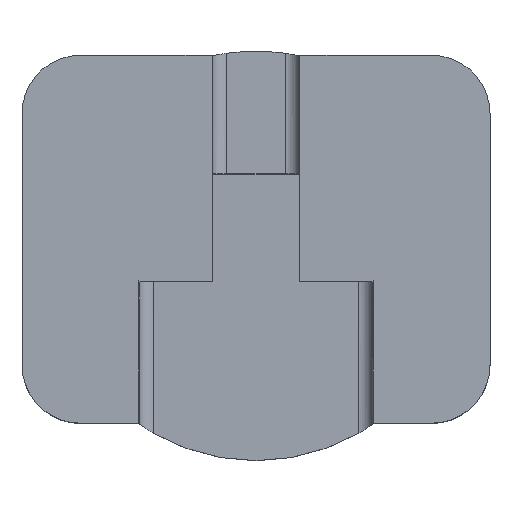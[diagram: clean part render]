
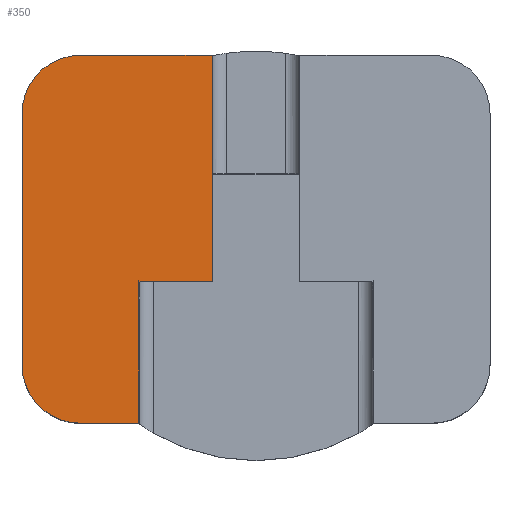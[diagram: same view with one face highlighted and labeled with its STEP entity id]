
A CAD part, top view. The second image highlights one B-rep face of the part: STEP entity #350.
In plain terms, the highlighted planar face has unit normal (0, 0, 1).
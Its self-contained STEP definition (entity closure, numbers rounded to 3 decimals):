
#14 = EDGE_CURVE ( 'NONE', #1750, #293, #222, .T. ) ;
#67 = EDGE_LOOP ( 'NONE', ( #465, #425, #2119, #1256, #1654, #199, #1938, #2074 ) ) ;
#69 = DIRECTION ( 'NONE',  ( 0., 1., 0. ) ) ;
#84 = VECTOR ( 'NONE', #881, 1000. ) ;
#130 = CARTESIAN_POINT ( 'NONE',  ( -1.5, -0.9, 43. ) ) ;
#140 = VECTOR ( 'NONE', #518, 1000. ) ;
#141 = CARTESIAN_POINT ( 'NONE',  ( -4., -0.9, 43. ) ) ;
#173 = FACE_OUTER_BOUND ( 'NONE', #67, .T. ) ;
#193 = EDGE_CURVE ( 'NONE', #293, #824, #2282, .T. ) ;
#199 = ORIENTED_EDGE ( 'NONE', *, *, #14, .T. ) ;
#215 = VERTEX_POINT ( 'NONE', #1244 ) ;
#222 = LINE ( 'NONE', #1147, #1876 ) ;
#241 = EDGE_CURVE ( 'NONE', #1416, #828, #1792, .T. ) ;
#266 = AXIS2_PLACEMENT_3D ( 'NONE', #718, #2124, #1573 ) ;
#281 = LINE ( 'NONE', #2220, #1232 ) ;
#293 = VERTEX_POINT ( 'NONE', #900 ) ;
#307 = CARTESIAN_POINT ( 'NONE',  ( -8., 0., 43. ) ) ;
#327 = LINE ( 'NONE', #307, #825 ) ;
#350 = ADVANCED_FACE ( 'NONE', ( #173 ), #539, .T. ) ;
#404 = VERTEX_POINT ( 'NONE', #1130 ) ;
#425 = ORIENTED_EDGE ( 'NONE', *, *, #609, .T. ) ;
#438 = DIRECTION ( 'NONE',  ( 0., 0., 1. ) ) ;
#465 = ORIENTED_EDGE ( 'NONE', *, *, #1423, .T. ) ;
#518 = DIRECTION ( 'NONE',  ( 0., 1., 0. ) ) ;
#539 = PLANE ( 'NONE',  #951 ) ;
#558 = CARTESIAN_POINT ( 'NONE',  ( 0., -5.745, 43. ) ) ;
#609 = EDGE_CURVE ( 'NONE', #1441, #404, #1454, .T. ) ;
#684 = EDGE_CURVE ( 'NONE', #1416, #404, #1618, .T. ) ;
#718 = CARTESIAN_POINT ( 'NONE',  ( -6., 4.837, 43. ) ) ;
#761 = CARTESIAN_POINT ( 'NONE',  ( 0., 0., 43. ) ) ;
#824 = VERTEX_POINT ( 'NONE', #1112 ) ;
#825 = VECTOR ( 'NONE', #1041, 1000. ) ;
#828 = VERTEX_POINT ( 'NONE', #141 ) ;
#881 = DIRECTION ( 'NONE',  ( -1., 0., 0. ) ) ;
#900 = CARTESIAN_POINT ( 'NONE',  ( -1.5, 6.837, 43. ) ) ;
#951 = AXIS2_PLACEMENT_3D ( 'NONE', #761, #1316, #1439 ) ;
#1040 = CARTESIAN_POINT ( 'NONE',  ( -4., -5.745, 43. ) ) ;
#1041 = DIRECTION ( 'NONE',  ( 0., -1., 0. ) ) ;
#1049 = AXIS2_PLACEMENT_3D ( 'NONE', #1202, #438, #1720 ) ;
#1112 = CARTESIAN_POINT ( 'NONE',  ( -6., 6.837, 43. ) ) ;
#1130 = CARTESIAN_POINT ( 'NONE',  ( -6., -5.745, 43. ) ) ;
#1147 = CARTESIAN_POINT ( 'NONE',  ( -1.5, -2.7, 43. ) ) ;
#1202 = CARTESIAN_POINT ( 'NONE',  ( -6., -3.745, 43. ) ) ;
#1220 = CARTESIAN_POINT ( 'NONE',  ( -4., -5.745, 43. ) ) ;
#1232 = VECTOR ( 'NONE', #1906, 1000. ) ;
#1244 = CARTESIAN_POINT ( 'NONE',  ( -8., 4.837, 43. ) ) ;
#1256 = ORIENTED_EDGE ( 'NONE', *, *, #241, .T. ) ;
#1269 = CIRCLE ( 'NONE', #266, 2. ) ;
#1316 = DIRECTION ( 'NONE',  ( 0., 0., 1. ) ) ;
#1416 = VERTEX_POINT ( 'NONE', #1220 ) ;
#1423 = EDGE_CURVE ( 'NONE', #215, #1441, #327, .T. ) ;
#1425 = DIRECTION ( 'NONE',  ( -1., 0., 0. ) ) ;
#1439 = DIRECTION ( 'NONE',  ( 1., 0., 0. ) ) ;
#1441 = VERTEX_POINT ( 'NONE', #1564 ) ;
#1454 = CIRCLE ( 'NONE', #1049, 2. ) ;
#1564 = CARTESIAN_POINT ( 'NONE',  ( -8., -3.745, 43. ) ) ;
#1573 = DIRECTION ( 'NONE',  ( 1., 0., 0. ) ) ;
#1597 = EDGE_CURVE ( 'NONE', #824, #215, #1269, .T. ) ;
#1618 = LINE ( 'NONE', #558, #2158 ) ;
#1654 = ORIENTED_EDGE ( 'NONE', *, *, #1782, .T. ) ;
#1720 = DIRECTION ( 'NONE',  ( 1., 0., 0. ) ) ;
#1750 = VERTEX_POINT ( 'NONE', #130 ) ;
#1782 = EDGE_CURVE ( 'NONE', #828, #1750, #281, .T. ) ;
#1792 = LINE ( 'NONE', #1040, #140 ) ;
#1876 = VECTOR ( 'NONE', #69, 1000. ) ;
#1906 = DIRECTION ( 'NONE',  ( 1., 0., 0. ) ) ;
#1938 = ORIENTED_EDGE ( 'NONE', *, *, #193, .T. ) ;
#1959 = CARTESIAN_POINT ( 'NONE',  ( 0., 6.837, 43. ) ) ;
#2074 = ORIENTED_EDGE ( 'NONE', *, *, #1597, .T. ) ;
#2119 = ORIENTED_EDGE ( 'NONE', *, *, #684, .F. ) ;
#2124 = DIRECTION ( 'NONE',  ( 0., 0., 1. ) ) ;
#2158 = VECTOR ( 'NONE', #1425, 1000. ) ;
#2220 = CARTESIAN_POINT ( 'NONE',  ( -4., -0.9, 43. ) ) ;
#2282 = LINE ( 'NONE', #1959, #84 ) ;
